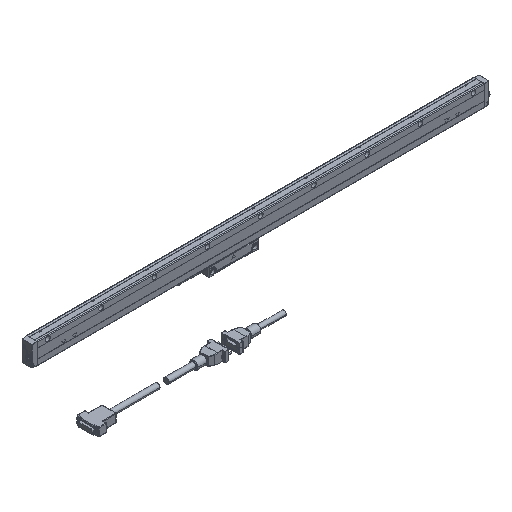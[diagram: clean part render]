
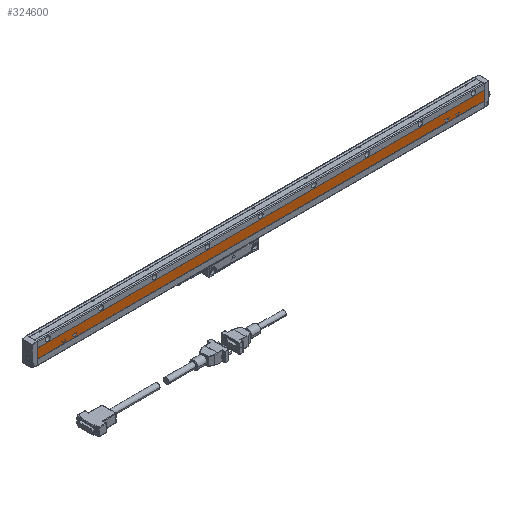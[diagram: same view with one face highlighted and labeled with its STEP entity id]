
A CAD part, isometric view. The second image highlights one B-rep face of the part: STEP entity #324600.
In plain terms, the highlighted planar face has unit normal (0, -1, 0) as drawn and (-1, 0, 0) by its records, which use the part's own axes.
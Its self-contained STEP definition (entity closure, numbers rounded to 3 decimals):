
#223900=CARTESIAN_POINT('',(24.2,75.2,580.));
#223910=VERTEX_POINT('',#223900);
#224080=CARTESIAN_POINT('',(24.2,81.2,584.));
#224090=VERTEX_POINT('',#224080);
#224120=CARTESIAN_POINT('',(24.2,0.,529.867));
#224130=DIRECTION('',(0.,-0.832,-0.555));
#224140=VECTOR('',#224130,1.);
#224150=LINE('',#224120,#224140);
#224160=EDGE_CURVE('',#224090,#223910,#224150,.T.);
#224300=CARTESIAN_POINT('',(24.2,80.2,556.667));
#224310=VERTEX_POINT('',#224300);
#224480=CARTESIAN_POINT('',(24.2,75.2,560.));
#224490=VERTEX_POINT('',#224480);
#224520=CARTESIAN_POINT('',(24.2,0.,610.133));
#224530=DIRECTION('',(0.,0.832,-0.555));
#224540=VECTOR('',#224530,1.);
#224550=LINE('',#224520,#224540);
#224560=EDGE_CURVE('',#224490,#224310,#224550,.T.);
#225190=CARTESIAN_POINT('',(24.2,80.2,563.333));
#225200=VERTEX_POINT('',#225190);
#225370=CARTESIAN_POINT('',(24.2,80.2,562.131));
#225380=VERTEX_POINT('',#225370);
#225410=CARTESIAN_POINT('',(24.2,80.2,500.));
#225420=DIRECTION('',(0.,0.,1.));
#225430=VECTOR('',#225420,1.);
#225440=LINE('',#225410,#225430);
#225450=EDGE_CURVE('',#225380,#225200,#225440,.T.);
#226620=CARTESIAN_POINT('',(24.2,80.2,1296.667));
#226630=VERTEX_POINT('',#226620);
#226800=CARTESIAN_POINT('',(24.2,75.2,1300.));
#226810=VERTEX_POINT('',#226800);
#226840=CARTESIAN_POINT('',(24.2,0.,1350.133));
#226850=DIRECTION('',(0.,0.832,-0.555));
#226860=VECTOR('',#226850,1.);
#226870=LINE('',#226840,#226860);
#226880=EDGE_CURVE('',#226810,#226630,#226870,.T.);
#227830=CARTESIAN_POINT('',(24.2,75.2,1280.));
#227840=VERTEX_POINT('',#227830);
#227920=CARTESIAN_POINT('',(24.2,81.2,1284.));
#227930=VERTEX_POINT('',#227920);
#227960=CARTESIAN_POINT('',(24.2,0.,1229.867));
#227970=DIRECTION('',(0.,-0.832,-0.555));
#227980=VECTOR('',#227970,1.);
#227990=LINE('',#227960,#227980);
#228000=EDGE_CURVE('',#227930,#227840,#227990,.T.);
#228230=CARTESIAN_POINT('',(24.2,80.2,1303.333));
#228240=VERTEX_POINT('',#228230);
#228270=CARTESIAN_POINT('',(24.2,0.,1249.867));
#228280=DIRECTION('',(0.,-0.832,-0.555));
#228290=VECTOR('',#228280,1.);
#228300=LINE('',#228270,#228290);
#228310=EDGE_CURVE('',#228240,#226810,#228300,.T.);
#231540=CARTESIAN_POINT('',(24.2,77.003,560.));
#231550=VERTEX_POINT('',#231540);
#231720=CARTESIAN_POINT('',(24.2,80.2,557.869));
#231730=VERTEX_POINT('',#231720);
#231760=CARTESIAN_POINT('',(24.2,0.,611.335));
#231770=DIRECTION('',(0.,-0.832,0.555));
#231780=VECTOR('',#231770,1.);
#231790=LINE('',#231760,#231780);
#231800=EDGE_CURVE('',#231730,#231550,#231790,.T.);
#233570=CARTESIAN_POINT('',(24.2,80.2,1302.131));
#233580=VERTEX_POINT('',#233570);
#233750=CARTESIAN_POINT('',(24.2,77.003,1300.));
#233760=VERTEX_POINT('',#233750);
#233790=CARTESIAN_POINT('',(24.2,0.,1248.665));
#233800=DIRECTION('',(0.,0.832,0.555));
#233810=VECTOR('',#233800,1.);
#233820=LINE('',#233790,#233810);
#233830=EDGE_CURVE('',#233760,#233580,#233820,.T.);
#235580=CARTESIAN_POINT('',(24.2,80.2,500.));
#235590=DIRECTION('',(0.,0.,1.));
#235600=VECTOR('',#235590,1.);
#235610=LINE('',#235580,#235600);
#235620=EDGE_CURVE('',#224310,#231730,#235610,.T.);
#239440=CARTESIAN_POINT('',(24.2,80.2,200.));
#239450=DIRECTION('',(0.,0.,1.));
#239460=VECTOR('',#239450,1.);
#239470=LINE('',#239440,#239460);
#239480=EDGE_CURVE('',#233580,#228240,#239470,.T.);
#239620=CARTESIAN_POINT('',(24.2,80.2,1297.869));
#239630=VERTEX_POINT('',#239620);
#239750=CARTESIAN_POINT('',(24.2,80.2,200.));
#239760=DIRECTION('',(0.,0.,1.));
#239770=VECTOR('',#239760,1.);
#239780=LINE('',#239750,#239770);
#239790=EDGE_CURVE('',#226630,#239630,#239780,.T.);
#240190=CARTESIAN_POINT('',(24.2,0.,508.665));
#240200=DIRECTION('',(0.,0.832,0.555));
#240210=VECTOR('',#240200,1.);
#240220=LINE('',#240190,#240210);
#240230=EDGE_CURVE('',#231550,#225380,#240220,.T.);
#240370=CARTESIAN_POINT('',(24.2,81.2,1276.));
#240380=VERTEX_POINT('',#240370);
#240430=CARTESIAN_POINT('',(24.2,0.,1330.133));
#240440=DIRECTION('',(0.,0.832,-0.555));
#240450=VECTOR('',#240440,1.);
#240460=LINE('',#240430,#240450);
#240470=EDGE_CURVE('',#227840,#240380,#240460,.T.);
#241400=CARTESIAN_POINT('',(24.2,81.2,200.));
#241410=DIRECTION('',(0.,0.,1.));
#241420=VECTOR('',#241410,1.);
#241430=LINE('',#241400,#241420);
#241440=EDGE_CURVE('',#240380,#227930,#241430,.T.);
#243130=CARTESIAN_POINT('',(24.2,81.2,576.));
#243140=VERTEX_POINT('',#243130);
#243170=CARTESIAN_POINT('',(24.2,81.2,500.));
#243180=DIRECTION('',(0.,0.,1.));
#243190=VECTOR('',#243180,1.);
#243200=LINE('',#243170,#243190);
#243210=EDGE_CURVE('',#243140,#224090,#243200,.T.);
#277150=CARTESIAN_POINT('',(24.2,75.2,510.));
#277160=VERTEX_POINT('',#277150);
#279410=CARTESIAN_POINT('',(24.2,92.8,510.));
#279420=VERTEX_POINT('',#279410);
#282910=CARTESIAN_POINT('',(24.2,0.,510.));
#282920=DIRECTION('',(0.,1.,0.));
#282930=VECTOR('',#282920,1.);
#282940=LINE('',#282910,#282930);
#282950=EDGE_CURVE('',#277160,#279420,#282940,.T.);
#285200=CARTESIAN_POINT('',(24.2,0.,630.133));
#285210=DIRECTION('',(0.,0.832,-0.555));
#285220=VECTOR('',#285210,1.);
#285230=LINE('',#285200,#285220);
#285240=EDGE_CURVE('',#223910,#243140,#285230,.T.);
#292560=CARTESIAN_POINT('',(24.2,0.,509.867));
#292570=DIRECTION('',(0.,-0.832,-0.555));
#292580=VECTOR('',#292570,1.);
#292590=LINE('',#292560,#292580);
#292600=EDGE_CURVE('',#225200,#224490,#292590,.T.);
#323060=CARTESIAN_POINT('',(24.2,75.2,1350.));
#323070=VERTEX_POINT('',#323060);
#323100=CARTESIAN_POINT('',(24.2,0.,1350.));
#323110=DIRECTION('',(0.,1.,0.));
#323120=VECTOR('',#323110,1.);
#323130=LINE('',#323100,#323120);
#323140=CARTESIAN_POINT('',(24.2,92.8,1350.));
#323150=VERTEX_POINT('',#323140);
#323160=EDGE_CURVE('',#323070,#323150,#323130,.T.);
#323950=CARTESIAN_POINT('',(24.2,75.2,1080.5));
#323960=DIRECTION('',(0.,0.,1.));
#323970=VECTOR('',#323960,1.);
#323980=LINE('',#323950,#323970);
#323990=EDGE_CURVE('',#277160,#224490,#323980,.T.);
#324010=EDGE_CURVE('',#224490,#223910,#323980,.T.);
#324030=CARTESIAN_POINT('',(24.2,75.2,780.5));
#324040=DIRECTION('',(0.,0.,1.));
#324050=VECTOR('',#324040,1.);
#324060=LINE('',#324030,#324050);
#324070=EDGE_CURVE('',#223910,#227840,#324060,.T.);
#324090=EDGE_CURVE('',#227840,#226810,#324060,.T.);
#324110=EDGE_CURVE('',#226810,#323070,#324060,.T.);
#324170=CARTESIAN_POINT('',(24.2,93.,201.));
#324180=DIRECTION('',(1.,0.,0.));
#324190=DIRECTION('',(0.,-1.,0.));
#324200=AXIS2_PLACEMENT_3D('',#324170,#324180,#324190);
#324210=PLANE('',#324200);
#324220=ORIENTED_EDGE('',*,*,#324110,.T.);
#324230=ORIENTED_EDGE('',*,*,#228310,.T.);
#324240=ORIENTED_EDGE('',*,*,#239480,.T.);
#324250=ORIENTED_EDGE('',*,*,#233830,.T.);
#324260=CARTESIAN_POINT('',(24.2,0.,1351.335));
#324270=DIRECTION('',(0.,-0.832,0.555));
#324280=VECTOR('',#324270,1.);
#324290=LINE('',#324260,#324280);
#324300=EDGE_CURVE('',#239630,#233760,#324290,.T.);
#324310=ORIENTED_EDGE('',*,*,#324300,.T.);
#324320=ORIENTED_EDGE('',*,*,#239790,.T.);
#324330=ORIENTED_EDGE('',*,*,#226880,.T.);
#324340=ORIENTED_EDGE('',*,*,#324090,.T.);
#324350=ORIENTED_EDGE('',*,*,#228000,.T.);
#324360=ORIENTED_EDGE('',*,*,#241440,.T.);
#324370=ORIENTED_EDGE('',*,*,#240470,.T.);
#324380=ORIENTED_EDGE('',*,*,#324070,.T.);
#324390=ORIENTED_EDGE('',*,*,#224160,.T.);
#324400=ORIENTED_EDGE('',*,*,#243210,.T.);
#324410=ORIENTED_EDGE('',*,*,#285240,.T.);
#324420=ORIENTED_EDGE('',*,*,#324010,.T.);
#324430=ORIENTED_EDGE('',*,*,#292600,.T.);
#324440=ORIENTED_EDGE('',*,*,#225450,.T.);
#324450=ORIENTED_EDGE('',*,*,#240230,.T.);
#324460=ORIENTED_EDGE('',*,*,#231800,.T.);
#324470=ORIENTED_EDGE('',*,*,#235620,.T.);
#324480=ORIENTED_EDGE('',*,*,#224560,.T.);
#324490=ORIENTED_EDGE('',*,*,#323990,.T.);
#324500=ORIENTED_EDGE('',*,*,#282950,.F.);
#324510=CARTESIAN_POINT('',(24.2,92.8,780.5));
#324520=DIRECTION('',(0.,0.,1.));
#324530=VECTOR('',#324520,1.);
#324540=LINE('',#324510,#324530);
#324550=EDGE_CURVE('',#279420,#323150,#324540,.T.);
#324560=ORIENTED_EDGE('',*,*,#324550,.F.);
#324570=ORIENTED_EDGE('',*,*,#323160,.T.);
#324580=EDGE_LOOP('',(#324570,#324560,#324500,#324490,#324480,#324470,
#324460,#324450,#324440,#324430,#324420,#324410,#324400,#324390,#324380,
#324370,#324360,#324350,#324340,#324330,#324320,#324310,#324250,#324240,
#324230,#324220));
#324590=FACE_OUTER_BOUND('',#324580,.T.);
#324600=ADVANCED_FACE('',(#324590),#324210,.F.);
